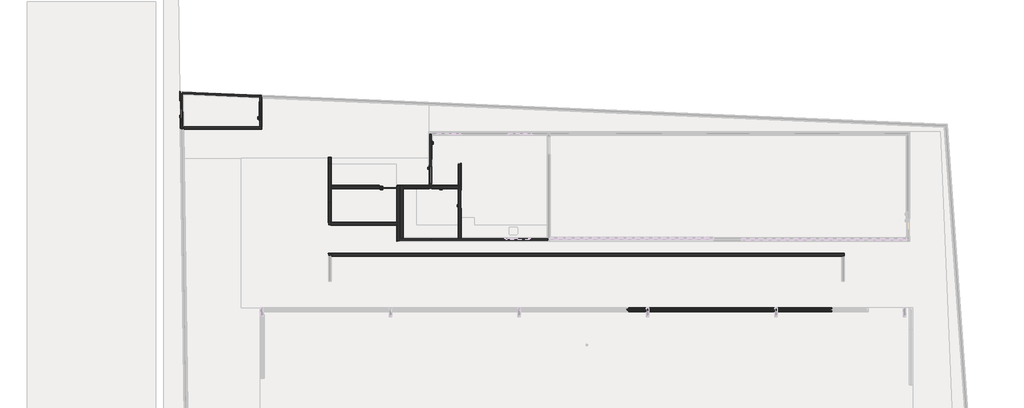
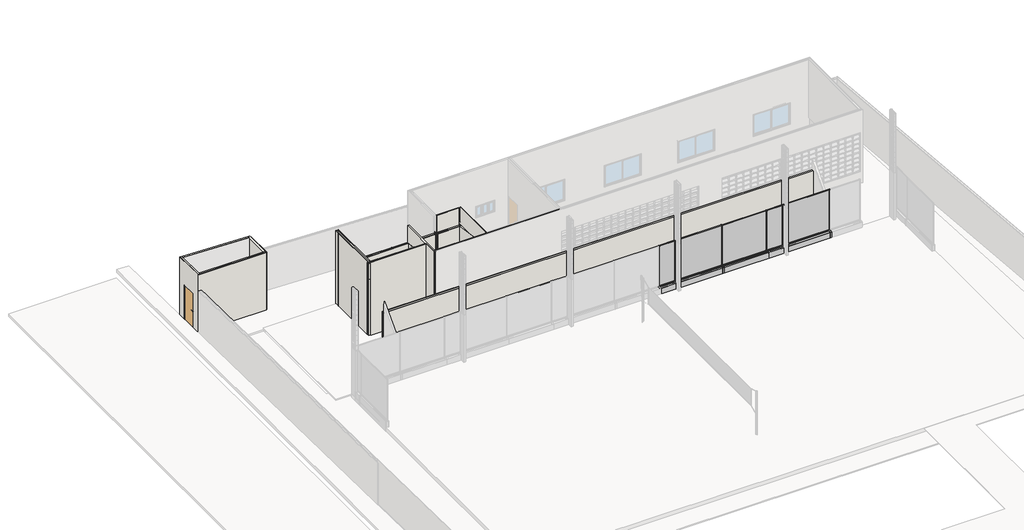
# One storey, part 20 of 28: 47 walls, 14 doors, 5 plates.
"""IFC4 building model written with IfcOpenShell, lengths in millimetres."""

from ifc_helpers import new_model, si_unit, frame, origin, origin_with_axes, place, context, project, spatial, polyline, outline, extrude, faceted_brep, transform, mapped, element, save
from components import door_29174598, door_95b59213, pf15_l82cm_5bfc7586, pf15_l82cm_686caa18, plate_c8864c2c, plate_0e4e2798

model = new_model("IFC4")

# Units and contexts
model_context = context("Model", 3, world=origin())
ifc_project = project(units=[si_unit("LENGTHUNIT", "METRE", prefix="MILLI")], contexts=[model_context])

# Site, building, storey
site = spatial("IfcSite", under=ifc_project)
building = spatial("IfcBuilding", under=site)
storey = spatial("IfcBuildingStorey", under=building, Name="Térreo", Elevation=0.0)

# Doors
placement = place(None, origin())
door_shape = door_29174598(model_context)
element("IfcDoor", 1, ObjectType="FDE_SO_Soleiras1 : SO14_SoleiraRampadaDesnívelAté2cm_L=14cm_Cimentado 2", at=placement, inside=storey, context=model_context, shape_type="MappedRepresentation", body=[
    mapped(door_shape, transform((-58744.1866069, 54527.8785028, 0.0), x_axis=(0.0, 1.0, 0.0), y_axis=(-1.0, 0.0, 0.0), z_axis=(0.0, 0.0, 1.0))),
])
element("IfcDoor", 2, ObjectType="FDE_SO_Soleiras1 : SO14_SoleiraRampadaDesnívelAté2cm_L=14cm_Cimentado 2", at=placement, inside=storey, context=model_context, shape_type="MappedRepresentation", body=[
    mapped(door_shape, transform((-49436.66665, 50432.0879102, 0.0), x_axis=(0.0, 1.0, 0.0), y_axis=(-1.0, 0.0, 0.0), z_axis=(0.0, 0.0, 1.0))),
])
element("IfcDoor", 3, ObjectType="FDE_SO_Soleiras1 : SO14_SoleiraRampadaDesnívelAté2cm_L=14cm_Cimentado 2", at=placement, inside=storey, context=model_context, shape_type="MappedRepresentation", body=[
    mapped(door_shape, transform((-50816.66665, 52732.0879102, 0.0), x_axis=(0.0, -1.0, 0.0), y_axis=(1.0, 0.0, 0.0), z_axis=(0.0, 0.0, 1.0))),
])
element("IfcDoor", 4, ObjectType="FDE_SO_Soleiras1 : SO14_SoleiraRampadaDesnívelAté2cm_L=14cm_Cimentado 2", at=placement, inside=storey, context=model_context, shape_type="MappedRepresentation", body=[
    mapped(door_shape, transform((-62404.7097622, 54604.9180713, 0.0), x_axis=(-0.014086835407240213, 0.999900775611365, 0.0), y_axis=(-0.999900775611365, -0.014086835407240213, 0.0), z_axis=(0.0, 0.0, 1.0))),
])
door_2_shape = door_95b59213(model_context)
element("IfcDoor", 5, ObjectType="FDE_SO_Soleiras1 : SO14_SoleiraRampadaDesnívelAté2cm_L=14cm_Cimentado 2", at=placement, inside=storey, context=model_context, shape_type="MappedRepresentation", body=[
    mapped(door_2_shape, transform((-50013.66665, 50999.0879102, 0.0), x_axis=(1.0, 0.0, 0.0), y_axis=(0.0, 1.0, 0.0), z_axis=(0.0, 0.0, 1.0))),
])
element("IfcDoor", 6, ObjectType="FDE_SO_Soleiras1 : SO14_SoleiraRampadaDesnívelAté2cm_L=14cm_Cimentado 2", at=placement, inside=storey, context=model_context, shape_type="MappedRepresentation", body=[
    mapped(door_2_shape, transform((-52783.66665, 50999.0879102, 0.0), x_axis=(1.0, 0.0, 0.0), y_axis=(0.0, 1.0, 0.0), z_axis=(0.0, 0.0, 1.0))),
])
element("IfcDoor", 7, ObjectType="FDE_SO_Soleiras1 : SO14_SoleiraRampadaDesnívelAté2cm_L=14cm_Cimentado 2", at=placement, inside=storey, context=model_context, shape_type="MappedRepresentation", body=[
    mapped(door_2_shape, transform((-50806.66665, 51556.0879102, 0.0), x_axis=(0.0, -1.0, 0.0), y_axis=(1.0, 0.0, 0.0), z_axis=(0.0, 0.0, 1.0))),
])
pf15_l82cm_shape = pf15_l82cm_5bfc7586(model_context)
element("IfcDoor", 8, ObjectType="FDE_PF15_PF16_PF17_PortaemChapadeFerro : PF15_L82cm", at=placement, inside=storey, context=model_context, shape_type="MappedRepresentation", body=[
    mapped(pf15_l82cm_shape, transform((-58749.1866069, 54527.8785028, 0.0), x_axis=(0.0, 1.0, 0.0), y_axis=(-1.0, 0.0, 0.0), z_axis=(0.0, 0.0, 1.0))),
])
element("IfcDoor", 9, ObjectType="FDE_PF15_PF16_PF17_PortaemChapadeFerro : PF15_L82cm", at=placement, inside=storey, context=model_context, shape_type="MappedRepresentation", body=[
    mapped(pf15_l82cm_shape, transform((-49441.66665, 50432.0879102, 0.0), x_axis=(0.0, 1.0, 0.0), y_axis=(-1.0, 0.0, 0.0), z_axis=(0.0, 0.0, 1.0))),
])
element("IfcDoor", 10, ObjectType="FDE_PF15_PF16_PF17_PortaemChapadeFerro : PF15_L82cm", at=placement, inside=storey, context=model_context, shape_type="MappedRepresentation", body=[
    mapped(pf15_l82cm_shape, transform((-50811.66665, 52732.0879102, 0.0), x_axis=(0.0, -1.0, 0.0), y_axis=(1.0, 0.0, 0.0), z_axis=(0.0, 0.0, 1.0))),
])
element("IfcDoor", 11, ObjectType="FDE_PF15_PF16_PF17_PortaemChapadeFerro : PF15_L82cm", at=placement, inside=storey, context=model_context, shape_type="MappedRepresentation", body=[
    mapped(pf15_l82cm_shape, transform((-62409.709266, 54604.8476371, 0.0), x_axis=(-0.014086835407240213, 0.999900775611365, 0.0), y_axis=(-0.999900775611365, -0.014086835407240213, 0.0), z_axis=(0.0, 0.0, 1.0))),
])
pf15_l82cm_2_shape = pf15_l82cm_686caa18(model_context)
element("IfcDoor", 12, ObjectType="FDE_PF15_PF16_PF17_PortaemChapadeFerro : PF15_L82cm", at=placement, inside=storey, context=model_context, shape_type="MappedRepresentation", body=[
    mapped(pf15_l82cm_2_shape, transform((-50013.66665, 50994.0879102, 0.0), x_axis=(1.0, 0.0, 0.0), y_axis=(0.0, 1.0, 0.0), z_axis=(0.0, 0.0, 1.0))),
])
element("IfcDoor", 13, ObjectType="FDE_PF15_PF16_PF17_PortaemChapadeFerro : PF15_L82cm", at=placement, inside=storey, context=model_context, shape_type="MappedRepresentation", body=[
    mapped(pf15_l82cm_2_shape, transform((-52783.66665, 50994.0879102, 0.0), x_axis=(1.0, 0.0, 0.0), y_axis=(0.0, 1.0, 0.0), z_axis=(0.0, 0.0, 1.0))),
])
element("IfcDoor", 14, ObjectType="FDE_PF15_PF16_PF17_PortaemChapadeFerro : PF15_L82cm", at=placement, inside=storey, context=model_context, shape_type="MappedRepresentation", body=[
    mapped(pf15_l82cm_2_shape, transform((-50811.66665, 51556.0879102, 0.0), x_axis=(0.0, -1.0, 0.0), y_axis=(1.0, 0.0, 0.0), z_axis=(0.0, 0.0, 1.0))),
])

# Plates
plate_shape = plate_c8864c2c(model_context)
element("IfcPlate", 15, ObjectType="FDE_FQ01_FechamentoParaQuadradeEsportes : FQ01_LateraisSapata", at=placement, inside=storey, context=model_context, shape_type="MappedRepresentation", body=[
    mapped(plate_shape, transform((-39414.9999998, 45265.0, -350.0), x_axis=(1.0, 0.0, 0.0), y_axis=(0.0, 1.0, 0.0), z_axis=(0.0, 0.0, 1.0))),
])
element("IfcPlate", 16, ObjectType="FDE_FQ01_FechamentoParaQuadradeEsportes : FQ01_LateraisSapata", at=placement, inside=storey, context=model_context, shape_type="MappedRepresentation", body=[
    mapped(plate_shape, transform((-36914.9999997, 45265.0, -350.0), x_axis=(1.0, 0.0, 0.0), y_axis=(0.0, 1.0, 0.0), z_axis=(0.0, 0.0, 1.0))),
])
element("IfcPlate", 17, ObjectType="FDE_FQ01_FechamentoParaQuadradeEsportes : FQ01_LateraisSapata", at=placement, inside=storey, context=model_context, shape_type="MappedRepresentation", body=[
    mapped(plate_shape, transform((-33414.9999998, 45265.0, -350.0), x_axis=(1.0, 0.0, 0.0), y_axis=(0.0, 1.0, 0.0), z_axis=(0.0, 0.0, 1.0))),
])
plate_2_shape = plate_0e4e2798(model_context)
element("IfcPlate", 18, ObjectType="FDE_FQ01_FechamentoParaQuadradeEsportes : FQ01_LateraisSapata", at=placement, inside=storey, context=model_context, shape_type="MappedRepresentation", body=[
    mapped(plate_2_shape, transform((-41224.9999998, 45265.0, -350.0), x_axis=(1.0, 0.0, 0.0), y_axis=(0.0, 1.0, 0.0), z_axis=(0.0, 0.0, 1.0))),
])
element("IfcPlate", 19, ObjectType="FDE_FQ01_FechamentoParaQuadradeEsportes : FQ01_LateraisSapata", at=placement, inside=storey, context=model_context, shape_type="MappedRepresentation", body=[
    mapped(plate_2_shape, transform((-35224.9999998, 45265.0, -350.0), x_axis=(1.0, 0.0, 0.0), y_axis=(0.0, 1.0, 0.0), z_axis=(0.0, 0.0, 1.0))),
])

# Walls
element("IfcWall", 20, ObjectType="FDE_S712_AlvenariadeTijoloCerâmico/Baiano_Alvenaria_9cm - Existente", at=placement, inside=storey, context=model_context, shape_type="Brep", body=[
    faceted_brep([(-55466.66665, 52080.0, 3500.0), (-55466.66665, 49320.0, 3500.0), (-55466.66665, 49230.0, 3500.0), (-55466.66665, 49230.0, 0.0), (-55466.66665, 49320.0, 0.0), (-55466.66665, 49420.0, 0.0), (-55466.66665, 49420.0, 2112.0), (-55466.66665, 50254.0, 2112.0), (-55466.66665, 50254.0, 0.0), (-55466.66665, 52080.0, 0.0), (-55556.66665, 49230.0, 3500.0), (-55556.66665, 52080.0, 3500.0), (-55556.66665, 52080.0, 0.0), (-55556.66665, 50254.0, 0.0), (-55556.66665, 50254.0, 2112.0), (-55556.66665, 49420.0, 2112.0), (-55556.66665, 49420.0, 0.0), (-55556.66665, 49320.0, 0.0), (-55556.66665, 49230.0, 0.0)], [[[0, 1, 2, 3, 4, 5, 6, 7, 8, 9]], [[10, 11, 12, 13, 14, 15, 16, 17, 18]], [[3, 18, 17, 16, 5, 4]], [[12, 9, 8, 13]], [[2, 1, 0, 11, 10]], [[3, 2, 10, 18]], [[0, 9, 12, 11]], [[15, 6, 5, 16]], [[6, 15, 14, 7]], [[7, 14, 13, 8]]]),
])
element("IfcWall", 21, ObjectType="FDE_S712_AlvenariadeTijoloCerâmico/Baiano_Alvenaria_9cm - Existente", at=placement, inside=storey, context=model_context, shape_type="SweptSolid", body=[
    extrude(outline(polyline([(-55466.66665, 49320.0), (-52356.66665, 49320.0), (-52356.66665, 49230.0), (-55466.66665, 49230.0), (-55466.66665, 49320.0)])), origin_with_axes(), (0.0, 0.0, 1.0), 3500.0),
])
element("IfcWall", 22, ObjectType="FDE_S712_AlvenariadeTijoloCerâmico/Baiano_Alvenaria_9cm - Existente", at=placement, inside=storey, context=model_context, shape_type="Brep", body=[
    faceted_brep([(-49486.66665, 51039.0879102, 0.0), (-50766.66665, 51039.0879102, 0.0), (-50766.66665, 51039.0879102, 3500.0), (-49486.66665, 51039.0879102, 3500.0), (-49486.66665, 50949.0879102, 0.0), (-49486.66665, 50949.0879102, 3500.0), (-50766.66665, 50949.0879102, 3500.0), (-50766.66665, 50949.0879102, 0.0), (-50766.66665, 50994.0879102, 0.0), (-50766.66665, 50994.0879102, 3500.0)], [[[0, 1, 2, 3]], [[4, 5, 6, 7]], [[1, 0, 4, 7, 8]], [[3, 2, 9, 6, 5]], [[0, 3, 5, 4]], [[2, 1, 8, 7, 6, 9]]]),
])
element("IfcWall", 23, ObjectType="FDE_S712_AlvenariadeTijoloCerâmico/Baiano_Alvenaria_9cm - Existente", at=placement, inside=storey, context=model_context, shape_type="SweptSolid", body=[
    extrude(outline(polyline([(-50766.66665, 48589.0879102), (-45340.0, 48589.0879102), (-45340.0, 48499.0879102), (-50766.66665, 48499.0879102), (-50766.66665, 48589.0879102)])), origin_with_axes(), (0.0, 0.0, 1.0), 3500.0),
])
element("IfcWall", 24, ObjectType="FDE_S712_AlvenariadeTijoloCerâmico/Baiano_Alvenaria_9cm - Existente", at=placement, inside=storey, context=model_context, shape_type="Brep", body=[
    faceted_brep([(-50766.66665, 53449.0879102, 3500.0), (-50766.66665, 51039.0879102, 3500.0), (-50766.66665, 51039.0879102, 220.0), (-50766.66665, 51039.0879102, 0.0), (-50766.66665, 51139.0879102, 0.0), (-50766.66665, 51139.0879102, 220.0), (-50766.66665, 51139.0879102, 2112.0), (-50766.66665, 51973.0879102, 2112.0), (-50766.66665, 51973.0879102, 220.0), (-50766.66665, 51973.0879102, 0.0), (-50766.66665, 53449.0879102, 0.0), (-50766.66665, 53449.0879102, 220.0), (-50856.66665, 51039.0879102, 3500.0), (-50856.66665, 53449.0879102, 3500.0), (-50856.66665, 53449.0879102, 0.0), (-50856.66665, 51973.0879102, 0.0), (-50856.66665, 51973.0879102, 2112.0), (-50856.66665, 51139.0879102, 2112.0), (-50856.66665, 51139.0879102, 0.0), (-50856.66665, 51039.0879102, 0.0)], [[[0, 1, 2, 3, 4, 5, 6, 7, 8, 9, 10, 11]], [[12, 13, 14, 15, 16, 17, 18, 19]], [[14, 10, 9, 15]], [[3, 19, 18, 4]], [[1, 0, 13, 12]], [[3, 2, 1, 12, 19]], [[17, 6, 5, 4, 18]], [[6, 17, 16, 7]], [[7, 16, 15, 9, 8]], [[10, 14, 13, 0, 11]]]),
])
element("IfcWall", 25, ObjectType="FDE_S712_AlvenariadeTijoloCerâmico/Baiano_Alvenaria_9cm - Existente", at=placement, inside=storey, context=model_context, shape_type="Brep", body=[
    faceted_brep([(-49396.66665, 51039.0879102, 3500.0), (-49396.66665, 51039.0879102, 0.0), (-49596.66665, 51039.0879102, 0.0), (-49596.66665, 51039.0879102, 2112.0), (-50430.66665, 51039.0879102, 2112.0), (-50430.66665, 51039.0879102, 0.0), (-50766.66665, 51039.0879102, 0.0), (-50766.66665, 51039.0879102, 3500.0), (-52116.66665, 51039.0879102, 0.0), (-52116.66665, 51039.0879102, 3466.1368135), (-52116.66665, 51039.0879102, 3500.0), (-50856.66665, 51039.0879102, 3500.0), (-50856.66665, 51039.0879102, 0.0), (-50886.66665, 51039.0879102, 0.0), (-49396.66665, 50949.0879102, 3500.0), (-49486.66665, 50949.0879102, 3500.0), (-52116.66665, 50949.0879102, 3500.0), (-52116.66665, 50949.0879102, 0.0), (-50430.66665, 50949.0879102, 0.0), (-50430.66665, 50949.0879102, 2112.0), (-49596.66665, 50949.0879102, 2112.0), (-49596.66665, 50949.0879102, 0.0), (-49486.66665, 50949.0879102, 0.0), (-49396.66665, 50949.0879102, 0.0), (-50856.66665, 50994.0879102, 0.0), (-50766.66665, 50994.0879102, 0.0), (-50766.66665, 50994.0879102, 3500.0), (-50856.66665, 50994.0879102, 3500.0)], [[[0, 1, 2, 3, 4, 5, 6, 7]], [[8, 9, 10, 11, 12, 13]], [[14, 15, 16, 17, 18, 19, 20, 21, 22, 23]], [[1, 23, 22, 21, 2]], [[17, 8, 13, 12, 24, 25, 6, 5, 18]], [[16, 15, 14, 0, 7, 26, 27, 11, 10]], [[1, 0, 14, 23]], [[10, 9, 8, 17, 16]], [[20, 3, 2, 21]], [[3, 20, 19, 4]], [[4, 19, 18, 5]], [[25, 26, 7, 6]], [[27, 24, 12, 11]], [[26, 25, 24, 27]]]),
])
element("IfcWall", 26, ObjectType="FDE_S712_AlvenariadeTijoloCerâmico/Baiano_Alvenaria_9cm - Existente", at=placement, inside=storey, context=model_context, shape_type="Brep", body=[
    faceted_brep([(-52116.66665, 48619.0879102, 0.0), (-52116.66665, 50949.0879102, 0.0), (-52116.66665, 51039.0879102, 0.0), (-52116.66665, 51039.0879102, 3466.1368135), (-52116.66665, 48619.0879102, 3829.1368135), (-52206.66665, 48619.0879102, 0.0), (-52206.66665, 48619.0879102, 3829.1368135), (-52206.66665, 50949.0879102, 3479.6368135), (-52206.66665, 51039.0879102, 3466.1368135), (-52206.66665, 51039.0879102, 0.0), (-52206.66665, 50949.0879102, 0.0)], [[[0, 1, 2, 3, 4]], [[5, 6, 7, 8, 9, 10]], [[2, 1, 0, 5, 10, 9]], [[3, 2, 9, 8]], [[4, 3, 8, 7, 6]], [[0, 4, 6, 5]]]),
])
element("IfcWall", 27, ObjectType="FDE_S712_AlvenariadeTijoloCerâmico/Baiano_Alvenaria_9cm - Existente", at=placement, inside=storey, context=model_context, shape_type="Brep", body=[
    faceted_brep([(-55556.66665, 52350.0, 0.0), (-55556.66665, 52125.0, 0.0), (-55556.66665, 49320.0, 0.0), (-55556.66665, 49320.0, 3500.0), (-55556.66665, 49230.0, 3500.0), (-55556.66665, 49230.0, 4469.7879016), (-55556.66665, 52350.0, 4469.7879016), (-55466.66665, 52350.0, 0.0), (-55466.66665, 52350.0, 4469.7879016), (-55466.66665, 49320.0, 4469.7879016), (-55466.66665, 49230.0, 4469.7879016), (-55466.66665, 49230.0, 3500.0), (-55466.66665, 49320.0, 3500.0), (-55466.66665, 49320.0, 220.0), (-55466.66665, 49320.0, 0.0), (-55466.66665, 49350.0, 0.0)], [[[0, 1, 2, 3, 4, 5, 6]], [[7, 8, 9, 10, 11, 12, 13, 14, 15]], [[2, 1, 0, 7, 15, 14]], [[6, 5, 10, 9, 8]], [[0, 6, 8, 7]], [[11, 4, 3, 12]], [[2, 14, 13, 12, 3]], [[5, 4, 11, 10]]]),
])
element("IfcWall", 28, ObjectType="FDE_S712_AlvenariadeTijoloCerâmico/Baiano_Alvenaria_9cm - Existente", at=placement, inside=storey, context=model_context, shape_type="Brep", body=[
    faceted_brep([(-55466.66665, 49230.0, 4469.7879016), (-55466.66665, 49230.0, 3500.0), (-55466.66665, 49230.0, 0.0), (-52386.66665, 49230.0, 0.0), (-52356.66665, 49230.0, 0.0), (-52356.66665, 49230.0, 4469.7879016), (-55466.66665, 49320.0, 0.0), (-55466.66665, 49320.0, 220.0), (-55466.66665, 49320.0, 3724.0), (-55466.66665, 49320.0, 4469.7879016), (-52356.66665, 49320.0, 4469.7879016), (-52356.66665, 49320.0, 0.0)], [[[0, 1, 2, 3, 4, 5]], [[6, 7, 8, 9, 10, 11]], [[4, 3, 2, 6, 11]], [[0, 5, 10, 9]], [[5, 4, 11, 10]], [[0, 9, 8, 7, 6, 2, 1]]]),
])
element("IfcWall", 29, ObjectType="FDE_S712_AlvenariadeTijoloCerâmico/Baiano_Alvenaria_9cm - Existente", at=placement, inside=storey, context=model_context, shape_type="Brep", body=[
    faceted_brep([(-45340.0, 48589.0879102, 4252.5), (-45340.0, 48589.0879102, 220.0), (-45340.0, 48589.0879102, 0.0), (-49396.66665, 48589.0879102, 0.0), (-49486.66665, 48589.0879102, 0.0), (-52266.66665, 48589.0879102, 0.0), (-52266.66665, 48589.0879102, 4470.1437432), (-45295.0, 48589.0879102, 4470.1437432), (-45295.0, 48589.0879102, 4252.5), (-46205.0, 48589.0879102, 1665.0), (-46205.0, 48589.0879102, 2335.0), (-47275.0, 48589.0879102, 2335.0), (-47275.0, 48589.0879102, 1665.0), (-45340.0, 48499.0879102, 0.0), (-45340.0, 48499.0879102, 4252.5), (-45295.0, 48499.0879102, 4252.5), (-45295.0, 48499.0879102, 4470.1437432), (-52266.66665, 48499.0879102, 4470.1437432), (-52266.66665, 48499.0879102, 0.0), (-46205.0, 48499.0879102, 1665.0), (-47275.0, 48499.0879102, 1665.0), (-47275.0, 48499.0879102, 2335.0), (-46205.0, 48499.0879102, 2335.0)], [[[0, 1, 2, 3, 4, 5, 6, 7, 8], [9, 10, 11, 12]], [[13, 14, 15, 16, 17, 18], [19, 20, 21, 22]], [[5, 4, 3, 2, 13, 18]], [[7, 6, 17, 16]], [[10, 9, 19, 22]], [[11, 10, 22, 21]], [[12, 11, 21, 20]], [[9, 12, 20, 19]], [[8, 7, 16, 15]], [[8, 15, 14, 0]], [[0, 14, 13, 2, 1]], [[6, 5, 18, 17]]]),
])
element("IfcWall", 30, ObjectType="FDE_S712_AlvenariadeTijoloCerâmico/Baiano_Alvenaria_9cm - Existente", at=placement, inside=storey, context=model_context, shape_type="SweptSolid", body=[
    extrude(outline(polyline([(-49396.66665, 50949.0879102), (-49396.66665, 48589.0879102), (-49486.66665, 48589.0879102), (-49486.66665, 50949.0879102), (-49396.66665, 50949.0879102)])), origin_with_axes(), (0.0, 0.0, 1.0), 3500.0),
])
element("IfcWall", 31, ObjectType="FDE_S712_AlvenariadeTijoloCerâmico/Baiano_Alvenaria_9cm - Existente", at=placement, inside=storey, context=model_context, shape_type="Brep", body=[
    faceted_brep([(-62375.033331, 55337.979339, 0.0), (-58794.1866069, 55184.5846313, 0.0), (-58794.1866069, 55184.5846313, 3500.0), (-62412.1538707, 55339.5694921, 3500.0), (-62412.1538707, 55339.5694921, 2545.9092161), (-62375.033331, 55337.979339, 2545.9092161), (-58794.1866069, 55274.667171, 0.0), (-62376.3032012, 55428.1162768, 0.0), (-62376.3032012, 55428.1162768, 2545.9092161), (-62413.4311518, 55429.7067473, 2545.9092161), (-62413.4311518, 55429.7067473, 3500.0), (-58794.1866069, 55274.667171, 3500.0), (-58794.1866069, 55274.667171, 2545.9092161)], [[[0, 1, 2, 3, 4, 5]], [[6, 7, 8, 9, 10, 11, 12]], [[1, 0, 7, 6]], [[3, 2, 11, 10]], [[2, 1, 6, 12, 11]], [[9, 8, 5, 4]], [[7, 0, 5, 8]], [[3, 10, 9, 4]]]),
])
element("IfcWall", 32, ObjectType="FDE_S712_AlvenariadeTijoloCerâmico/Baiano_Alvenaria_9cm - Existente", at=placement, inside=storey, context=model_context, shape_type="Brep", body=[
    faceted_brep([(-62352.2512371, 53720.8785028, 0.0), (-58704.1866069, 53720.8785028, 0.0), (-58704.1866069, 53720.8785028, 3500.0), (-62389.2163695, 53720.8785028, 3500.0), (-62389.2163695, 53720.8785028, 2545.9092161), (-62352.2512371, 53720.8785028, 2545.9092161), (-62353.5191781, 53810.8785028, 0.0), (-62353.5191781, 53810.8785028, 2545.9092161), (-62390.4917056, 53810.8785028, 2545.9092161), (-62390.4917056, 53810.8785028, 3500.0), (-58794.1866069, 53810.8785028, 3500.0), (-58704.1866069, 53810.8785028, 3500.0), (-58704.1866069, 53810.8785028, 0.0), (-58794.1866069, 53810.8785028, 0.0)], [[[0, 1, 2, 3, 4, 5]], [[6, 7, 8, 9, 10, 11, 12, 13]], [[1, 0, 6, 13, 12]], [[3, 2, 11, 10, 9]], [[2, 1, 12, 11]], [[4, 8, 7, 5]], [[0, 5, 7, 6]], [[4, 3, 9, 8]]]),
])
element("IfcWall", 33, ObjectType="FDE_S712_AlvenariadeTijoloCerâmico/Baiano_Alvenaria_9cm - Existente", at=placement, inside=storey, context=model_context, shape_type="Brep", body=[
    faceted_brep([(-58794.1866069, 53810.8785028, 3500.0), (-58794.1866069, 55163.5653721, 3500.0), (-58794.1866069, 55184.5846313, 3500.0), (-58794.1866069, 55274.667171, 3500.0), (-58794.1866069, 55274.667171, 0.0), (-58794.1866069, 55184.5846313, 0.0), (-58794.1866069, 54944.8785028, 0.0), (-58794.1866069, 54944.8785028, 2112.0), (-58794.1866069, 54110.8785028, 2112.0), (-58794.1866069, 54110.8785028, 0.0), (-58794.1866069, 53810.8785028, 0.0), (-58704.1866069, 55270.8117913, 3500.0), (-58704.1866069, 53810.8785028, 3500.0), (-58704.1866069, 53810.8785028, 0.0), (-58704.1866069, 54110.8785028, 0.0), (-58704.1866069, 54110.8785028, 2112.0), (-58704.1866069, 54944.8785028, 2112.0), (-58704.1866069, 54944.8785028, 0.0), (-58704.1866069, 55270.8117913, 0.0)], [[[0, 1, 2, 3, 4, 5, 6, 7, 8, 9, 10]], [[11, 12, 13, 14, 15, 16, 17, 18]], [[13, 10, 9, 14]], [[4, 18, 17, 6, 5]], [[3, 2, 1, 0, 12, 11]], [[0, 10, 13, 12]], [[4, 3, 11, 18]], [[16, 7, 6, 17]], [[7, 16, 15, 8]], [[8, 15, 14, 9]]]),
])
element("IfcWall", 34, ObjectType="FDE_S712_AlvenariadeTijoloCerâmico/Baiano_Alvenaria_9cm - Existente", at=placement, inside=storey, context=model_context, shape_type="Brep", body=[
    faceted_brep([(-52356.66665, 50949.0879102, 3479.6368135), (-55436.66665, 50949.0879102, 3479.6368135), (-55436.66665, 50949.0879102, 220.0), (-55436.66665, 50949.0879102, 0.0), (-53200.66665, 50949.0879102, 0.0), (-53200.66665, 50949.0879102, 220.0), (-53200.66665, 50949.0879102, 2112.0), (-52366.66665, 50949.0879102, 2112.0), (-52366.66665, 50949.0879102, 220.0), (-52366.66665, 50949.0879102, 0.0), (-52356.66665, 50949.0879102, 0.0), (-52356.66665, 50949.0879102, 220.0), (-55436.66665, 51039.0879102, 3466.1368135), (-53200.66665, 51039.0879102, 3466.1368135), (-52356.66665, 51039.0879102, 3466.1368135), (-52356.66665, 51039.0879102, 0.0), (-52366.66665, 51039.0879102, 0.0), (-52366.66665, 51039.0879102, 2112.0), (-53200.66665, 51039.0879102, 2112.0), (-53200.66665, 51039.0879102, 0.0), (-55436.66665, 51039.0879102, 0.0)], [[[0, 1, 2, 3, 4, 5, 6, 7, 8, 9, 10, 11]], [[12, 13, 14, 15, 16, 17, 18, 19, 20]], [[15, 10, 9, 16]], [[3, 20, 19, 4]], [[7, 17, 16, 9, 8]], [[17, 7, 6, 18]], [[18, 6, 5, 4, 19]], [[1, 0, 14, 13, 12]], [[0, 11, 10, 15, 14]], [[3, 2, 1, 12, 20]]]),
])
element("IfcWall", 35, ObjectType="FDE_S712_AlvenariadeTijoloCerâmico/Baiano_Alvenaria_9cm - Existente", at=placement, inside=storey, context=model_context, shape_type="SweptSolid", body=[
    extrude(outline(polyline([(-49486.66665, 51039.0879102), (-49486.66665, 52069.0879102), (-49396.66665, 52069.0879102), (-49396.66665, 51039.0879102), (-49486.66665, 51039.0879102)])), origin_with_axes(), (0.0, 0.0, 1.0), 3500.0),
])
element("IfcWall", 36, ObjectType="FDE_S712_AlvenariadeTijoloCerâmico/Baiano_Alvenaria_9cm - Existente", at=placement, inside=storey, context=model_context, shape_type="Brep", body=[
    faceted_brep([(-49486.66665, 48619.0879102, 3500.0), (-49486.66665, 50949.0879102, 3500.0), (-49486.66665, 50949.0879102, 3479.6368135), (-49486.66665, 50949.0879102, 220.0), (-49486.66665, 50949.0879102, 0.0), (-49486.66665, 50849.0879102, 0.0), (-49486.66665, 50849.0879102, 220.0), (-49486.66665, 50849.0879102, 2112.0), (-49486.66665, 50015.0879102, 2112.0), (-49486.66665, 50015.0879102, 220.0), (-49486.66665, 50015.0879102, 0.0), (-49486.66665, 48619.0879102, 0.0), (-49396.66665, 50949.0879102, 3500.0), (-49396.66665, 48619.0879102, 3500.0), (-49396.66665, 48619.0879102, 0.0), (-49396.66665, 50015.0879102, 0.0), (-49396.66665, 50015.0879102, 220.0), (-49396.66665, 50015.0879102, 2112.0), (-49396.66665, 50849.0879102, 2112.0), (-49396.66665, 50849.0879102, 220.0), (-49396.66665, 50849.0879102, 0.0), (-49396.66665, 50949.0879102, 0.0)], [[[0, 1, 2, 3, 4, 5, 6, 7, 8, 9, 10, 11]], [[12, 13, 14, 15, 16, 17, 18, 19, 20, 21]], [[4, 21, 20, 5]], [[14, 11, 10, 15]], [[1, 0, 13, 12]], [[4, 3, 2, 1, 12, 21]], [[18, 7, 6, 5, 20, 19]], [[7, 18, 17, 8]], [[8, 17, 16, 15, 10, 9]], [[0, 11, 14, 13]]]),
])
element("IfcWall", 37, ObjectType="Pintura Externa - Tinta Acrílica Verbrás  Verde Água", at=placement, inside=storey, context=model_context, shape_type="Brep", body=[
    faceted_brep([(-55586.66665, 52380.0, 0.0), (-55586.66665, 52125.0, 0.0), (-55586.66665, 52125.0, 4500.0), (-55586.66665, 52380.0, 4500.0), (-55556.66665, 52380.0, 0.0), (-55556.66665, 52380.0, 4500.0), (-55556.66665, 52350.0, 4500.0), (-55556.66665, 52125.0, 4500.0), (-55556.66665, 52125.0, 0.0), (-55556.66665, 52350.0, 0.0)], [[[0, 1, 2, 3]], [[4, 5, 6, 7, 8, 9]], [[1, 0, 4, 9, 8]], [[2, 1, 8, 7]], [[3, 2, 7, 6, 5]], [[0, 3, 5, 4]]]),
])
element("IfcWall", 38, ObjectType="Pintura Externa - Tinta Acrílica Verbrás  Verde Água", at=placement, inside=storey, context=model_context, shape_type="SweptSolid", body=[
    extrude(outline(polyline([(4469.7879016, -55466.66665), (0.0, -55466.66665), (0.0, -52386.66665), (4500.0, -52386.66665), (4500.0, -55556.66665), (4469.7879016, -55556.66665), (4469.7879016, -55466.66665)])), frame((0.0, 49200.0, 0.0), z_axis=(0.0, 1.0, 0.0), x_axis=(0.0, 0.0, 1.0)), (0.0, 0.0, 1.0), 30.0),
])
element("IfcWall", 39, ObjectType="Pintura Externa - Tinta Acrílica Verbrás  Verde Água", at=placement, inside=storey, context=model_context, shape_type="Brep", body=[
    faceted_brep([(-52386.66665, 49230.0, 4500.0), (-52386.66665, 49230.0, 0.0), (-52386.66665, 49200.0, 0.0), (-52386.66665, 48469.0879102, 0.0), (-52386.66665, 48469.0879102, 4500.0), (-52386.66665, 49200.0, 4500.0), (-52356.66665, 49230.0, 0.0), (-52356.66665, 49230.0, 4469.7879016), (-52356.66665, 49230.0, 4500.0), (-52356.66665, 48499.0879102, 4500.0), (-52356.66665, 48469.0879102, 4500.0), (-52356.66665, 48469.0879102, 4469.7879016), (-52356.66665, 48469.0879102, 0.0)], [[[0, 1, 2, 3, 4, 5]], [[6, 7, 8, 9, 10, 11, 12]], [[3, 2, 1, 6, 12]], [[0, 5, 4, 10, 9, 8]], [[0, 8, 7, 6, 1]], [[3, 12, 11, 10, 4]]]),
])
element("IfcWall", 40, ObjectType="Pintura Externa - Tinta Acrílica Verbrás  Verde Água", at=placement, inside=storey, context=model_context, shape_type="Brep", body=[
    faceted_brep([(-55436.66665, 51039.0879102, 0.0), (-53200.66665, 51039.0879102, 0.0), (-53200.66665, 51039.0879102, 2112.0), (-53200.66665, 51039.0879102, 3466.1368135), (-55436.66665, 51039.0879102, 3466.1368135), (-55436.66665, 51069.0879102, 0.0), (-55436.66665, 51069.0879102, 3461.6368135), (-53200.66665, 51069.0879102, 3461.6368135), (-53200.66665, 51069.0879102, 2112.0), (-53200.66665, 51069.0879102, 0.0)], [[[0, 1, 2, 3, 4]], [[5, 6, 7, 8, 9]], [[1, 0, 5, 9]], [[3, 2, 1, 9, 8, 7]], [[4, 3, 7, 6]], [[0, 4, 6, 5]]]),
])
element("IfcWall", 41, ObjectType="Pintura Externa - Tinta Acrílica Verbrás  Verde Água", at=placement, inside=storey, context=model_context, shape_type="Brep", body=[
    faceted_brep([(-55466.66665, 52380.0, 0.0), (-55466.66665, 52350.0, 0.0), (-55466.66665, 49350.0, 0.0), (-55466.66665, 49350.0, 220.0), (-55466.66665, 49350.0, 3719.5), (-55466.66665, 49350.0, 4500.0), (-55466.66665, 52350.0, 4500.0), (-55466.66665, 52380.0, 4500.0), (-55436.66665, 52380.0, 0.0), (-55436.66665, 52380.0, 4500.0), (-55436.66665, 49350.0, 4500.0), (-55436.66665, 49350.0, 0.0), (-55436.66665, 50949.0879102, 0.0), (-55436.66665, 51039.0879102, 0.0), (-55436.66665, 51069.0879102, 0.0)], [[[0, 1, 2, 3, 4, 5, 6, 7]], [[8, 9, 10, 11, 12, 13, 14]], [[2, 1, 0, 8, 14, 13, 12, 11]], [[7, 6, 5, 10, 9]], [[0, 7, 9, 8]], [[5, 4, 3, 2, 11, 10]]]),
])
element("IfcWall", 42, ObjectType="Pintura Externa - Tinta Acrílica Verbrás  Verde Água", at=placement, inside=storey, context=model_context, shape_type="Brep", body=[
    faceted_brep([(-55556.66665, 52350.0, 0.0), (-55466.66665, 52350.0, 0.0), (-55466.66665, 52350.0, 4469.7879016), (-55466.66665, 52350.0, 4500.0), (-55556.66665, 52350.0, 4500.0), (-55556.66665, 52350.0, 4469.7879016), (-55556.66665, 52380.0, 0.0), (-55556.66665, 52380.0, 4500.0), (-55466.66665, 52380.0, 4500.0), (-55466.66665, 52380.0, 0.0)], [[[0, 1, 2, 3, 4, 5]], [[6, 7, 8, 9]], [[1, 0, 6, 9]], [[4, 3, 8, 7]], [[0, 5, 4, 7, 6]], [[3, 2, 1, 9, 8]]]),
])
element("IfcWall", 43, ObjectType="Pintura Externa - Tinta Acrílica Verbrás  Verde Água", at=placement, inside=storey, context=model_context, shape_type="Brep", body=[
    faceted_brep([(-50886.66665, 51039.0879102, 0.0), (-50886.66665, 51039.0879102, 3466.1368135), (-52206.66665, 51039.0879102, 3466.1368135), (-52266.66665, 51039.0879102, 3466.1368135), (-52356.66665, 51039.0879102, 3466.1368135), (-53200.66665, 51039.0879102, 3466.1368135), (-53200.66665, 51039.0879102, 2112.0), (-52366.66665, 51039.0879102, 2112.0), (-52366.66665, 51039.0879102, 0.0), (-52356.66665, 51039.0879102, 0.0), (-52266.66665, 51039.0879102, 0.0), (-52206.66665, 51039.0879102, 0.0), (-50886.66665, 51069.0879102, 3461.6368135), (-50886.66665, 51069.0879102, 0.0), (-52366.66665, 51069.0879102, 0.0), (-52366.66665, 51069.0879102, 2112.0), (-53200.66665, 51069.0879102, 2112.0), (-53200.66665, 51069.0879102, 3461.6368135)], [[[0, 1, 2, 3, 4, 5, 6, 7, 8, 9, 10, 11]], [[12, 13, 14, 15, 16, 17]], [[13, 0, 11, 10, 9, 8, 14]], [[5, 17, 16, 6]], [[1, 0, 13, 12]], [[7, 15, 14, 8]], [[15, 7, 6, 16]], [[5, 4, 3, 2, 1, 12, 17]]]),
])
element("IfcWall", 44, ObjectType="Pintura Externa - Tinta Acrílica Verbrás  Verde Água", at=placement, inside=storey, context=model_context, shape_type="Brep", body=[
    faceted_brep([(-55586.66665, 52125.0, 0.0), (-55586.66665, 49320.0, 0.0), (-55586.66665, 49320.0, 4469.7879016), (-55586.66665, 49200.0, 4469.7879016), (-55586.66665, 49200.0, 4500.0), (-55586.66665, 52125.0, 4500.0), (-55556.66665, 52125.0, 0.0), (-55556.66665, 52125.0, 4500.0), (-55556.66665, 49230.0, 4500.0), (-55556.66665, 49200.0, 4500.0), (-55556.66665, 49200.0, 4469.7879016), (-55556.66665, 49230.0, 4469.7879016), (-55556.66665, 49320.0, 4469.7879016), (-55556.66665, 49320.0, 3500.0), (-55556.66665, 49320.0, 0.0), (-55556.66665, 49420.0, 0.0), (-55556.66665, 50254.0, 0.0), (-55556.66665, 52080.0, 0.0)], [[[0, 1, 2, 3, 4, 5]], [[6, 7, 8, 9, 10, 11, 12, 13, 14, 15, 16, 17]], [[1, 0, 6, 17, 16, 15, 14]], [[5, 4, 9, 8, 7]], [[0, 5, 7, 6]], [[10, 3, 2, 12, 11]], [[1, 14, 13, 12, 2]], [[4, 3, 10, 9]]]),
])
element("IfcWall", 45, ObjectType="FDE_S712_AlvenariadeTijoloCerâmico/Baiano_Alvenaria_9cm - Existente", at=placement, inside=storey, context=model_context, shape_type="SweptSolid", body=[
    extrude(outline(polyline([(50949.0879102, 0.0), (50949.0879102, 3479.6368135), (51039.0879102, 3466.1368135), (51039.0879102, 0.0), (50949.0879102, 0.0)])), frame((-52266.66665, 0.0, 0.0), z_axis=(1.0, 0.0, 0.0), x_axis=(0.0, 1.0, 0.0)), (0.0, 0.0, 1.0), 60.0),
])
element("IfcWall", 46, ObjectType="FDE_S712_AlvenariadeTijoloCerâmico/Baiano_Alvenaria_9cm - Existente", at=placement, inside=storey, context=model_context, shape_type="Brep", body=[
    faceted_brep([(-52356.66665, 51039.0879102, 0.0), (-52356.66665, 49320.0, 0.0), (-52356.66665, 49230.0, 0.0), (-52356.66665, 48484.0879102, 0.0), (-52356.66665, 48484.0879102, 4469.7879016), (-52356.66665, 51039.0879102, 4469.7879016), (-52266.66665, 51039.0879102, 0.0), (-52266.66665, 51039.0879102, 4469.7879016), (-52266.66665, 48484.0879102, 4469.7879016), (-52266.66665, 48484.0879102, 0.0)], [[[0, 1, 2, 3, 4, 5]], [[6, 7, 8, 9]], [[3, 2, 1, 0, 6, 9]], [[4, 3, 9, 8]], [[5, 4, 8, 7]], [[0, 5, 7, 6]]]),
])
element("IfcWall", 47, ObjectType="Pardes Externas_Pintura Acrílica Branco Neve", at=placement, inside=storey, context=model_context, shape_type="Brep", body=[
    faceted_brep([(-58704.1866069, 55180.7292517, 100.0), (-58704.1866069, 53699.8785028, 100.0), (-58704.1866069, 53699.8785028, 3500.0), (-58704.1866069, 53720.8785028, 3500.0), (-58704.1866069, 55180.7292517, 3500.0), (-58683.1866069, 55179.8296631, 100.0), (-58683.1866069, 55179.8296631, 3500.0), (-58683.1866069, 53699.8785028, 3500.0), (-58683.1866069, 53699.8785028, 100.0)], [[[0, 1, 2, 3, 4]], [[5, 6, 7, 8]], [[1, 0, 5, 8]], [[4, 3, 2, 7, 6]], [[2, 1, 8, 7]], [[0, 4, 6, 5]]]),
])
element("IfcWall", 48, ObjectType="Pardes Externas_Pintura Acrílica Branco Neve", at=placement, inside=storey, context=model_context, shape_type="Brep", body=[
    faceted_brep([(-58704.1866069, 53720.8785028, 0.0), (-62352.2512371, 53720.8785028, 0.0), (-62389.2163695, 53720.8785028, 0.0), (-62474.3544075, 53720.8785028, 0.0), (-62474.3544075, 53720.8785028, 2545.9092161), (-62495.3564914, 53720.8785028, 2545.9092161), (-62495.3564914, 53720.8785028, 3500.0), (-62474.3544075, 53720.8785028, 3500.0), (-58704.1866069, 53720.8785028, 3500.0), (-58704.1866069, 53699.8785028, 0.0), (-58704.1866069, 53699.8785028, 100.0), (-58704.1866069, 53699.8785028, 3500.0), (-62495.0606385, 53699.8785028, 3500.0), (-62495.0606385, 53699.8785028, 2545.9092161), (-62474.0585546, 53699.8785028, 2545.9092161), (-62474.0585546, 53699.8785028, 0.0), (-62386.0499891, 53699.8785028, 0.0), (-62353.4566796, 53699.8785028, 0.0)], [[[0, 1, 2, 3, 4, 5, 6, 7, 8]], [[9, 10, 11, 12, 13, 14, 15, 16, 17]], [[3, 2, 1, 0, 9, 17, 16, 15]], [[8, 7, 6, 12, 11]], [[0, 8, 11, 10, 9]], [[13, 5, 4, 14]], [[4, 3, 15, 14]], [[6, 5, 13, 12]]]),
])
element("IfcWall", 49, ObjectType="Revestimento Cerâmico 10x10cm", at=placement, inside=storey, context=model_context, shape_type="Brep", body=[
    faceted_brep([(-49486.66665, 48589.0879102, 3833.6368135), (-49486.66665, 48589.0879102, 220.0), (-49486.66665, 50015.0879102, 220.0), (-49486.66665, 50015.0879102, 2112.0), (-49486.66665, 50849.0879102, 2112.0), (-49486.66665, 50849.0879102, 220.0), (-49486.66665, 50949.0879102, 220.0), (-49486.66665, 50949.0879102, 3479.6368135), (-49516.66665, 48589.0879102, 220.0), (-49516.66665, 48589.0879102, 3833.6368135), (-49516.66665, 50919.0879102, 3484.1368135), (-49516.66665, 50949.0879102, 3479.6368135), (-49516.66665, 50949.0879102, 1100.0), (-49516.66665, 50949.0879102, 220.0), (-49516.66665, 50849.0879102, 220.0), (-49516.66665, 50849.0879102, 2112.0), (-49516.66665, 50015.0879102, 2112.0), (-49516.66665, 50015.0879102, 220.0)], [[[0, 1, 2, 3, 4, 5, 6, 7]], [[8, 9, 10, 11, 12, 13, 14, 15, 16, 17]], [[1, 8, 17, 2]], [[13, 6, 5, 14]], [[8, 1, 0, 9]], [[7, 6, 13, 12, 11]], [[4, 15, 14, 5]], [[15, 4, 3, 16]], [[16, 3, 2, 17]], [[0, 7, 11, 10, 9]]]),
])
element("IfcWall", 50, ObjectType="Revestimento Cerâmico 10x10cm", at=placement, inside=storey, context=model_context, shape_type="Brep", body=[
    faceted_brep([(-49396.66665, 52099.0879102, 3375.0), (-49396.66665, 52099.0879102, 220.0), (-49396.66665, 52069.0879102, 220.0), (-49396.66665, 50849.0879102, 220.0), (-49396.66665, 50849.0879102, 2112.0), (-49396.66665, 50015.0879102, 2112.0), (-49396.66665, 50015.0879102, 220.0), (-49396.66665, 48589.0879102, 220.0), (-49396.66665, 48589.0879102, 4500.0), (-49396.66665, 51069.0879102, 4500.0), (-49396.66665, 51069.0879102, 3632.5), (-49396.66665, 52069.0879102, 3382.5), (-49366.66665, 48589.0879102, 4500.0), (-49366.66665, 48589.0879102, 220.0), (-49366.66665, 50015.0879102, 220.0), (-49366.66665, 50015.0879102, 2112.0), (-49366.66665, 50849.0879102, 2112.0), (-49366.66665, 50849.0879102, 220.0), (-49366.66665, 52099.0879102, 220.0), (-49366.66665, 52099.0879102, 3375.0), (-49366.66665, 51069.0879102, 3632.5), (-49366.66665, 51069.0879102, 4500.0)], [[[0, 1, 2, 3, 4, 5, 6, 7, 8, 9, 10, 11]], [[12, 13, 14, 15, 16, 17, 18, 19, 20, 21]], [[13, 7, 6, 14]], [[1, 18, 17, 3, 2]], [[1, 0, 19, 18]], [[7, 13, 12, 8]], [[16, 4, 3, 17]], [[4, 16, 15, 5]], [[5, 15, 14, 6]], [[8, 12, 21, 9]], [[9, 21, 20, 10]], [[0, 11, 10, 20, 19]]]),
])
element("IfcWall", 51, ObjectType="Revestimento Cerâmico 10x10cm", at=placement, inside=storey, context=model_context, shape_type="Brep", body=[
    faceted_brep([(-52116.66665, 50949.0879102, 220.0), (-52116.66665, 48619.0879102, 220.0), (-52116.66665, 48619.0879102, 3829.1368135), (-52116.66665, 50949.0879102, 3479.6368135), (-52086.66665, 50949.0879102, 220.0), (-52086.66665, 50949.0879102, 3479.6368135), (-52086.66665, 50919.0879102, 3484.1368135), (-52086.66665, 48619.0879102, 3829.1368135), (-52086.66665, 48619.0879102, 220.0), (-52086.66665, 50919.0879102, 220.0)], [[[0, 1, 2, 3]], [[4, 5, 6, 7, 8, 9]], [[1, 0, 4, 9, 8]], [[2, 1, 8, 7]], [[0, 3, 5, 4]], [[3, 2, 7, 6, 5]]]),
])
element("IfcWall", 52, ObjectType="Revestimento Cerâmico 10x10cm", at=placement, inside=storey, context=model_context, shape_type="Brep", body=[
    faceted_brep([(-55466.66665, 50949.0879102, 220.0), (-55466.66665, 49320.0, 220.0), (-55466.66665, 49320.0, 3500.0), (-55466.66665, 49320.0, 3724.0), (-55466.66665, 50949.0879102, 3479.6368135), (-55436.66665, 50949.0879102, 220.0), (-55436.66665, 50949.0879102, 3479.6368135), (-55436.66665, 50919.0879102, 3484.1368135), (-55436.66665, 49320.0, 3724.0), (-55436.66665, 49320.0, 220.0), (-55436.66665, 50919.0879102, 220.0)], [[[0, 1, 2, 3, 4]], [[5, 6, 7, 8, 9, 10]], [[1, 0, 5, 10, 9]], [[1, 9, 8, 3, 2]], [[0, 4, 6, 5]], [[4, 3, 8, 7, 6]]]),
])
element("IfcWall", 53, ObjectType="Revestimento Cerâmico 10x10cm", at=placement, inside=storey, context=model_context, shape_type="Brep", body=[
    faceted_brep([(-55436.66665, 50949.0879102, 220.0), (-55436.66665, 50949.0879102, 3479.6368135), (-52356.66665, 50949.0879102, 3479.6368135), (-52356.66665, 50949.0879102, 220.0), (-52366.66665, 50949.0879102, 220.0), (-52366.66665, 50949.0879102, 2112.0), (-53200.66665, 50949.0879102, 2112.0), (-53200.66665, 50949.0879102, 220.0), (-55436.66665, 50919.0879102, 3484.1368135), (-55436.66665, 50919.0879102, 220.0), (-53200.66665, 50919.0879102, 220.0), (-53200.66665, 50919.0879102, 2112.0), (-52366.66665, 50919.0879102, 2112.0), (-52366.66665, 50919.0879102, 220.0), (-52356.66665, 50919.0879102, 220.0), (-52356.66665, 50919.0879102, 3484.1368135), (-52386.66665, 50919.0879102, 3484.1368135)], [[[0, 1, 2, 3, 4, 5, 6, 7]], [[8, 9, 10, 11, 12, 13, 14, 15, 16]], [[9, 0, 7, 10]], [[3, 14, 13, 4]], [[1, 0, 9, 8]], [[3, 2, 15, 14]], [[12, 5, 4, 13]], [[5, 12, 11, 6]], [[6, 11, 10, 7]], [[2, 1, 8, 16, 15]]]),
])
element("IfcWall", 54, ObjectType="Revestimento Cerâmico 10x10cm", at=placement, inside=storey, context=model_context, shape_type="Brep", body=[
    faceted_brep([(-55466.66665, 49320.0, 3724.0), (-55466.66665, 49320.0, 3500.0), (-55466.66665, 49320.0, 220.0), (-52356.66665, 49320.0, 220.0), (-52356.66665, 49320.0, 3724.0), (-55466.66665, 49350.0, 220.0), (-55466.66665, 49350.0, 3719.5), (-52386.66665, 49350.0, 3719.5), (-52356.66665, 49350.0, 3719.5), (-52356.66665, 49350.0, 220.0), (-52386.66665, 49350.0, 220.0)], [[[0, 1, 2, 3, 4]], [[5, 6, 7, 8, 9, 10]], [[3, 2, 5, 10, 9]], [[0, 6, 5, 2, 1]], [[4, 3, 9, 8]], [[0, 4, 8, 7, 6]]]),
])
element("IfcWall", 55, ObjectType="Revestimento Cerâmico 10x10cm", at=placement, inside=storey, context=model_context, shape_type="SweptSolid", body=[
    extrude(outline(polyline([(50949.0879102, 3479.6368135), (50949.0879102, 220.0), (50919.0879102, 220.0), (50919.0879102, 3484.1368135), (50949.0879102, 3479.6368135)])), frame((-52086.66665, 0.0, 0.0), z_axis=(1.0, 0.0, 0.0), x_axis=(0.0, 1.0, 0.0)), (0.0, 0.0, 1.0), 1215.0),
])
element("IfcWall", 56, ObjectType="Revestimento Cerâmico 10x10cm", at=placement, inside=storey, context=model_context, shape_type="SweptSolid", body=[
    extrude(outline(polyline([(50949.0879102, 3479.6368135), (50949.0879102, 1100.0), (50919.0879102, 1100.0), (50919.0879102, 3484.1368135), (50949.0879102, 3479.6368135)])), frame((-50751.66665, 0.0, 0.0), z_axis=(1.0, 0.0, 0.0), x_axis=(0.0, 1.0, 0.0)), (0.0, 0.0, 1.0), 1235.0),
])
element("IfcWall", 57, ObjectType="Revestimento Cerâmico 10x10cm", at=placement, inside=storey, context=model_context, shape_type="Brep", body=[
    faceted_brep([(-50736.66665, 51039.0879102, 220.0), (-49486.66665, 51039.0879102, 220.0), (-49486.66665, 51039.0879102, 4500.0), (-50736.66665, 51039.0879102, 4500.0), (-50736.66665, 51069.0879102, 220.0), (-50736.66665, 51069.0879102, 4500.0), (-49486.66665, 51069.0879102, 4500.0), (-49486.66665, 51069.0879102, 3632.5), (-49486.66665, 51069.0879102, 220.0), (-49516.66665, 51069.0879102, 220.0)], [[[0, 1, 2, 3]], [[4, 5, 6, 7, 8, 9]], [[1, 0, 4, 9, 8]], [[3, 2, 6, 5]], [[2, 1, 8, 7, 6]], [[0, 3, 5, 4]]]),
])
element("IfcWall", 58, ObjectType="Revestimento Cerâmico 10x10cm", at=placement, inside=storey, context=model_context, shape_type="SweptSolid", body=[
    extrude(outline(polyline([(51069.0879102, 220.0), (51069.0879102, 3632.5), (52069.0879102, 3382.5), (52069.0879102, 220.0), (51069.0879102, 220.0)])), frame((-49516.66665, 0.0, 0.0), z_axis=(1.0, 0.0, 0.0), x_axis=(0.0, 1.0, 0.0)), (0.0, 0.0, 1.0), 30.0),
])
element("IfcWall", 59, ObjectType="Revestimento Cerâmico 10x10cm", at=placement, inside=storey, context=model_context, shape_type="Brep", body=[
    faceted_brep([(-52356.66665, 49350.0, 220.0), (-52356.66665, 50919.0879102, 220.0), (-52356.66665, 50919.0879102, 3484.1368135), (-52356.66665, 49350.0, 3719.5), (-52386.66665, 49350.0, 220.0), (-52386.66665, 49350.0, 3719.5), (-52386.66665, 50919.0879102, 3484.1368135), (-52386.66665, 50919.0879102, 220.0), (-52366.66665, 50919.0879102, 220.0)], [[[0, 1, 2, 3]], [[4, 5, 6, 7]], [[1, 0, 4, 7, 8]], [[2, 1, 8, 7, 6]], [[0, 3, 5, 4]], [[3, 2, 6, 5]]]),
])
element("IfcWall", 60, ObjectType="FDE_S712_AlvenariadeTijoloCerâmico/Baiano_Alvenaria_9cm", at=placement, inside=storey, context=model_context, shape_type="Brep", body=[
    faceted_brep([(-55565.66665, 47789.0, 200.0), (-55475.66665, 47789.0, 200.0), (-31587.66665, 47789.0, 200.0), (-31497.66665, 47789.0, 200.0), (-31497.66665, 47789.0, 2420.0), (-55565.66665, 47789.0, 2420.0), (-55565.66665, 47879.0, 200.0), (-55565.66665, 47879.0, 2420.0), (-31497.66665, 47879.0, 2420.0), (-31497.66665, 47879.0, 200.0)], [[[0, 1, 2, 3, 4, 5]], [[6, 7, 8, 9]], [[4, 3, 9, 8]], [[0, 5, 7, 6]], [[3, 2, 1, 0, 6, 9]], [[5, 4, 8, 7]]]),
])
element("IfcWall", 61, ObjectType="Pardes Externas_Pintura Acrílica Branco Neve", at=placement, inside=storey, context=model_context, shape_type="Brep", body=[
    faceted_brep([(-55576.16665, 47879.0, 200.0), (-55475.66665, 47879.0, 200.0), (-55454.66665, 47879.0, 200.0), (-31608.66665, 47879.0, 200.0), (-31587.66665, 47879.0, 200.0), (-31487.16665, 47879.0, 200.0), (-31487.16665, 47879.0, 2420.0), (-55576.16665, 47879.0, 2420.0), (-55576.16665, 47900.0, 200.0), (-55576.16665, 47900.0, 2420.0), (-31487.16665, 47900.0, 2420.0), (-31487.16665, 47900.0, 200.0)], [[[0, 1, 2, 3, 4, 5, 6, 7]], [[8, 9, 10, 11]], [[5, 4, 3, 2, 1, 0, 8, 11]], [[6, 5, 11, 10]], [[7, 6, 10, 9]], [[0, 7, 9, 8]]]),
])
element("IfcWall", 62, ObjectType="FDE_S712_AlvenariadeTijoloCerâmico/Baiano_Alvenaria_9cm - Existente", at=placement, inside=storey, context=model_context, shape_type="Brep", body=[
    faceted_brep([(-62375.033331, 55337.979339, 2545.9092161), (-62374.7370279, 55316.9473869, 2545.9092161), (-62353.5191781, 53810.8785028, 2545.9092161), (-62352.2512371, 53720.8785028, 2545.9092161), (-62352.2512371, 53720.8785028, 0.0), (-62353.5191781, 53810.8785028, 0.0), (-62358.8395208, 54188.5229213, 0.0), (-62358.8395208, 54188.5229213, 2112.0), (-62370.5879415, 55022.4401681, 2112.0), (-62370.5879415, 55022.4401681, 0.0), (-62374.7370279, 55316.9473869, 0.0), (-62375.033331, 55337.979339, 0.0), (-62407.6526215, 55021.9179923, 0.0), (-62412.1538707, 55339.5694921, 0.0), (-62389.2163695, 53720.8785028, 0.0), (-62395.8356929, 54188.0017106, 0.0), (-62412.1538707, 55339.5694921, 2545.9092161), (-62389.2163695, 53720.8785028, 2545.9092161), (-62407.6526215, 55021.9179923, 2112.0), (-62395.8356929, 54188.0017106, 2112.0)], [[[0, 1, 2, 3, 4, 5, 6, 7, 8, 9, 10, 11]], [[11, 10, 9, 12, 13]], [[6, 5, 4, 14, 15]], [[3, 2, 1, 0, 16, 17]], [[0, 11, 13, 16]], [[9, 8, 18, 12]], [[8, 7, 19, 18]], [[7, 6, 15, 19]], [[13, 12, 18, 19, 15, 14, 17, 16]], [[4, 3, 17, 14]]]),
])
element("IfcWall", 63, ObjectType="Pardes Externas_Pintura Acrílica Branco Neve", at=placement, inside=storey, context=model_context, shape_type="Brep", body=[
    faceted_brep([(-62498.776409, 55454.3819885, 3500.0), (-62498.480106, 55433.3500363, 3500.0), (-62474.3544075, 53720.8785028, 3500.0), (-62474.3544075, 53720.8785028, 2545.9092161), (-62474.3544075, 53720.8785028, 0.0), (-62480.9184611, 54186.8030447, 0.0), (-62480.9184611, 54186.8030447, 2112.0), (-62492.6668819, 55020.7202915, 2112.0), (-62492.6668819, 55020.7202915, 0.0), (-62497.2102358, 55343.2130985, 0.0), (-62498.480106, 55433.3500363, 0.0), (-62498.776409, 55454.3819885, 0.0), (-62498.776409, 55454.3819885, 2545.9092161), (-62495.3564914, 53720.8785028, 3500.0), (-62519.7911755, 55455.2822096, 3500.0), (-62519.7911755, 55455.2822096, 0.0), (-62513.6647982, 55020.424468, 0.0), (-62513.6647982, 55020.424468, 2112.0), (-62501.9163774, 54186.5072211, 2112.0), (-62501.9163774, 54186.5072211, 0.0), (-62495.3564914, 53720.8785028, 0.0), (-62495.3564914, 53720.8785028, 2545.9092161)], [[[0, 1, 2, 3, 4, 5, 6, 7, 8, 9, 10, 11, 12]], [[13, 14, 15, 16, 17, 18, 19, 20, 21]], [[15, 11, 10, 9, 8, 16]], [[4, 20, 19, 5]], [[2, 1, 0, 14, 13]], [[0, 12, 11, 15, 14]], [[4, 3, 2, 13, 21, 20]], [[7, 17, 16, 8]], [[17, 7, 6, 18]], [[18, 6, 5, 19]]]),
])
element("IfcWall", 64, ObjectType="FDE_S712_AlvenariadeTijoloCerâmico/Baiano_Alvenaria_9cm - Existente", at=placement, inside=storey, context=model_context, shape_type="Brep", body=[
    faceted_brep([(-62413.4311518, 55429.7067473, 3500.0), (-62389.2163695, 53720.8785028, 3500.0), (-62389.2163695, 53720.8785028, 2545.9092161), (-62389.2163695, 53720.8785028, 0.0), (-62395.8356929, 54188.0017106, 0.0), (-62395.8356929, 54188.0017106, 2112.0), (-62407.6526215, 55021.9179923, 2112.0), (-62407.6526215, 55021.9179923, 0.0), (-62412.1538707, 55339.5694921, 0.0), (-62412.1538707, 55339.5694921, 2545.9092161), (-62413.4311518, 55429.7067473, 2545.9092161), (-62492.6668819, 55020.7202915, 0.0), (-62497.2102358, 55343.2130985, 0.0), (-62474.3544075, 53720.8785028, 0.0), (-62480.9184611, 54186.8030447, 0.0), (-62498.480106, 55433.3500363, 3500.0), (-62474.3544075, 53720.8785028, 3500.0), (-62497.2102358, 55343.2130985, 2545.9092161), (-62498.480106, 55433.3500363, 2545.9092161), (-62492.6668819, 55020.7202915, 2112.0), (-62480.9184611, 54186.8030447, 2112.0)], [[[0, 1, 2, 3, 4, 5, 6, 7, 8, 9, 10]], [[8, 7, 11, 12]], [[4, 3, 13, 14]], [[1, 0, 15, 16]], [[10, 9, 17, 18]], [[9, 8, 12, 17]], [[0, 10, 18, 15]], [[7, 6, 19, 11]], [[6, 5, 20, 19]], [[5, 4, 14, 20]], [[12, 11, 19, 20, 14, 13, 16, 15, 18, 17]], [[3, 2, 1, 16, 13]]]),
])
element("IfcWall", 65, ObjectType="Pardes Externas_Pintura Acrílica Branco Neve", at=placement, inside=storey, context=model_context, shape_type="SweptSolid", body=[
    extrude(outline(polyline([(-55475.66665, 47789.0), (-31587.66665, 47789.0), (-31587.66665, 47768.0), (-55475.66665, 47768.0), (-55475.66665, 47789.0)])), frame((0.0, 0.0, 220.0), z_axis=(0.0, 0.0, 1.0), x_axis=(1.0, 0.0, 0.0)), (0.0, 0.0, 1.0), 2200.0),
])
element("IfcWall", 66, ObjectType="FDE_S712_AlvenariadeTijoloCerâmico/Baiano_Alvenaria_9cm - Existente", at=placement, inside=storey, context=model_context, shape_type="SweptSolid", body=[
    extrude(outline(polyline([(-55466.66665, 49420.0), (-55556.66665, 49420.0), (-55556.66665, 50254.0), (-55466.66665, 50254.0), (-55466.66665, 49420.0)])), origin_with_axes(), (0.0, 0.0, 1.0), 2112.0),
])

save(model, "model.ifc")
